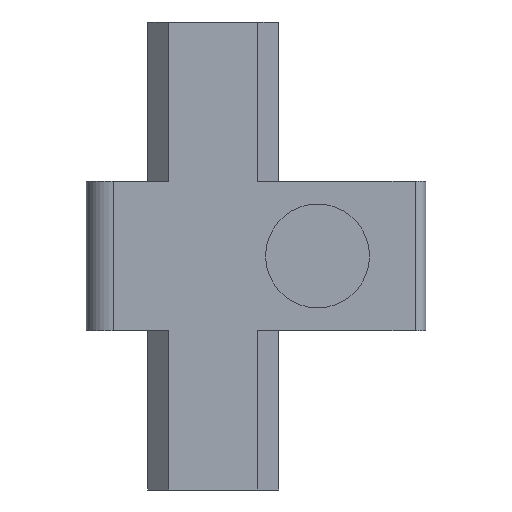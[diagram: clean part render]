
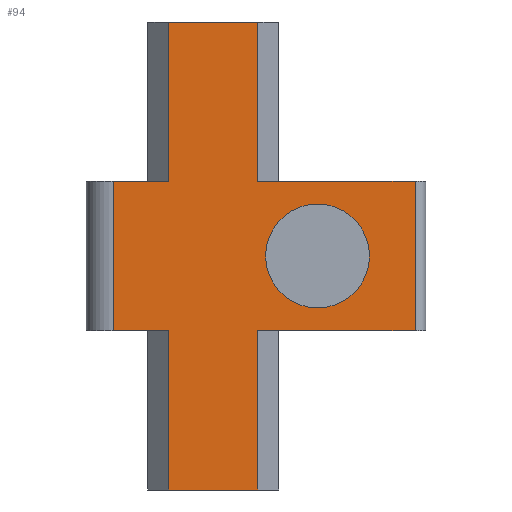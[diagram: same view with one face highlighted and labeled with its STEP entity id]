
A CAD part, front view. The second image highlights one B-rep face of the part: STEP entity #94.
In plain terms, the highlighted planar face has unit normal (0, -1, 0).
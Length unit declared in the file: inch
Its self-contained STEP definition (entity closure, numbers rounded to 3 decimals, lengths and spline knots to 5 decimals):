
#69=FACE_BOUND('',#189,.T.);
#70=FACE_BOUND('',#190,.T.);
#83=CIRCLE('',#736,0.26587);
#94=ADVANCED_FACE('',(#69,#70),#131,.F.);
#131=PLANE('',#737);
#189=EDGE_LOOP('',(#262));
#190=EDGE_LOOP('',(#263,#264,#265,#266,#267,#268,#269,#270,#271,#272,#273,
#274));
#262=ORIENTED_EDGE('',*,*,#514,.T.);
#263=ORIENTED_EDGE('',*,*,#499,.F.);
#264=ORIENTED_EDGE('',*,*,#515,.F.);
#265=ORIENTED_EDGE('',*,*,#516,.F.);
#266=ORIENTED_EDGE('',*,*,#517,.T.);
#267=ORIENTED_EDGE('',*,*,#496,.F.);
#268=ORIENTED_EDGE('',*,*,#518,.T.);
#269=ORIENTED_EDGE('',*,*,#506,.T.);
#270=ORIENTED_EDGE('',*,*,#519,.T.);
#271=ORIENTED_EDGE('',*,*,#520,.T.);
#272=ORIENTED_EDGE('',*,*,#521,.F.);
#273=ORIENTED_EDGE('',*,*,#513,.T.);
#274=ORIENTED_EDGE('',*,*,#522,.T.);
#429=VERTEX_POINT('',#965);
#431=VERTEX_POINT('',#969);
#433=VERTEX_POINT('',#975);
#434=VERTEX_POINT('',#977);
#439=VERTEX_POINT('',#989);
#440=VERTEX_POINT('',#991);
#442=VERTEX_POINT('',#996);
#445=VERTEX_POINT('',#1003);
#446=VERTEX_POINT('',#1007);
#447=VERTEX_POINT('',#1009);
#448=VERTEX_POINT('',#1011);
#449=VERTEX_POINT('',#1015);
#450=VERTEX_POINT('',#1017);
#496=EDGE_CURVE('',#431,#429,#590,.T.);
#499=EDGE_CURVE('',#433,#434,#593,.T.);
#506=EDGE_CURVE('',#440,#439,#597,.T.);
#513=EDGE_CURVE('',#442,#445,#601,.T.);
#514=EDGE_CURVE('',#446,#446,#83,.T.);
#515=EDGE_CURVE('',#447,#433,#602,.T.);
#516=EDGE_CURVE('',#448,#447,#603,.T.);
#517=EDGE_CURVE('',#448,#429,#604,.T.);
#518=EDGE_CURVE('',#431,#440,#605,.T.);
#519=EDGE_CURVE('',#439,#449,#606,.T.);
#520=EDGE_CURVE('',#449,#450,#607,.T.);
#521=EDGE_CURVE('',#442,#450,#608,.T.);
#522=EDGE_CURVE('',#445,#434,#609,.T.);
#590=LINE('',#970,#660);
#593=LINE('',#976,#663);
#597=LINE('',#990,#667);
#601=LINE('',#1004,#671);
#602=LINE('',#1008,#672);
#603=LINE('',#1010,#673);
#604=LINE('',#1012,#674);
#605=LINE('',#1013,#675);
#606=LINE('',#1014,#676);
#607=LINE('',#1016,#677);
#608=LINE('',#1018,#678);
#609=LINE('',#1019,#679);
#660=VECTOR('',#790,1.);
#663=VECTOR('',#795,1.);
#667=VECTOR('',#807,1.);
#671=VECTOR('',#819,1.);
#672=VECTOR('',#824,1.);
#673=VECTOR('',#825,1.);
#674=VECTOR('',#826,1.);
#675=VECTOR('',#827,1.);
#676=VECTOR('',#828,1.);
#677=VECTOR('',#829,1.);
#678=VECTOR('',#830,1.);
#679=VECTOR('',#831,1.);
#736=AXIS2_PLACEMENT_3D('',#1006,#822,#823);
#737=AXIS2_PLACEMENT_3D('',#1020,#832,#833);
#790=DIRECTION('',(1.,0.,0.));
#795=DIRECTION('',(1.,0.,0.));
#807=DIRECTION('',(1.,0.,0.));
#819=DIRECTION('',(1.,0.,0.));
#822=DIRECTION('',(0.,1.,0.));
#823=DIRECTION('',(0.,0.,-1.));
#824=DIRECTION('',(0.,0.,-1.));
#825=DIRECTION('',(1.,0.,0.));
#826=DIRECTION('',(0.,0.,-1.));
#827=DIRECTION('',(0.,0.,-1.));
#828=DIRECTION('',(0.,0.,-1.));
#829=DIRECTION('',(1.,0.,0.));
#830=DIRECTION('',(0.,0.,-1.));
#831=DIRECTION('',(0.,0.,1.));
#832=DIRECTION('',(0.,1.,0.));
#833=DIRECTION('',(0.,0.,1.));
#965=CARTESIAN_POINT('',(0.28335,-0.1385,0.76378));
#969=CARTESIAN_POINT('',(0.,-0.1385,0.76378));
#970=CARTESIAN_POINT('',(0.,-0.1385,0.76378));
#975=CARTESIAN_POINT('',(0.73917,-0.1385,0.76378));
#976=CARTESIAN_POINT('',(0.,-0.1385,0.76378));
#977=CARTESIAN_POINT('',(1.54409,-0.1385,0.76378));
#989=CARTESIAN_POINT('',(0.28335,-0.1385,0.));
#990=CARTESIAN_POINT('',(0.,-0.1385,0.));
#991=CARTESIAN_POINT('',(0.,-0.1385,0.));
#996=CARTESIAN_POINT('',(0.73917,-0.1385,0.));
#1003=CARTESIAN_POINT('',(1.54409,-0.1385,0.));
#1004=CARTESIAN_POINT('',(0.,-0.1385,0.));
#1006=CARTESIAN_POINT('',(1.04531,-0.1385,0.38189));
#1007=CARTESIAN_POINT('',(1.04531,-0.1385,0.11602));
#1008=CARTESIAN_POINT('',(0.73917,-0.1385,1.57909));
#1009=CARTESIAN_POINT('',(0.73917,-0.1385,1.57909));
#1010=CARTESIAN_POINT('',(0.28335,-0.1385,1.57909));
#1011=CARTESIAN_POINT('',(0.28335,-0.1385,1.57909));
#1012=CARTESIAN_POINT('',(0.28335,-0.1385,1.57909));
#1013=CARTESIAN_POINT('',(0.,-0.1385,0.76378));
#1014=CARTESIAN_POINT('',(0.28335,-0.1385,1.57909));
#1015=CARTESIAN_POINT('',(0.28335,-0.1385,-0.81535));
#1016=CARTESIAN_POINT('',(0.28335,-0.1385,-0.81535));
#1017=CARTESIAN_POINT('',(0.73917,-0.1385,-0.81535));
#1018=CARTESIAN_POINT('',(0.73917,-0.1385,1.57909));
#1019=CARTESIAN_POINT('',(1.54409,-0.1385,0.76378));
#1020=CARTESIAN_POINT('',(0.,-0.1385,0.76378));
